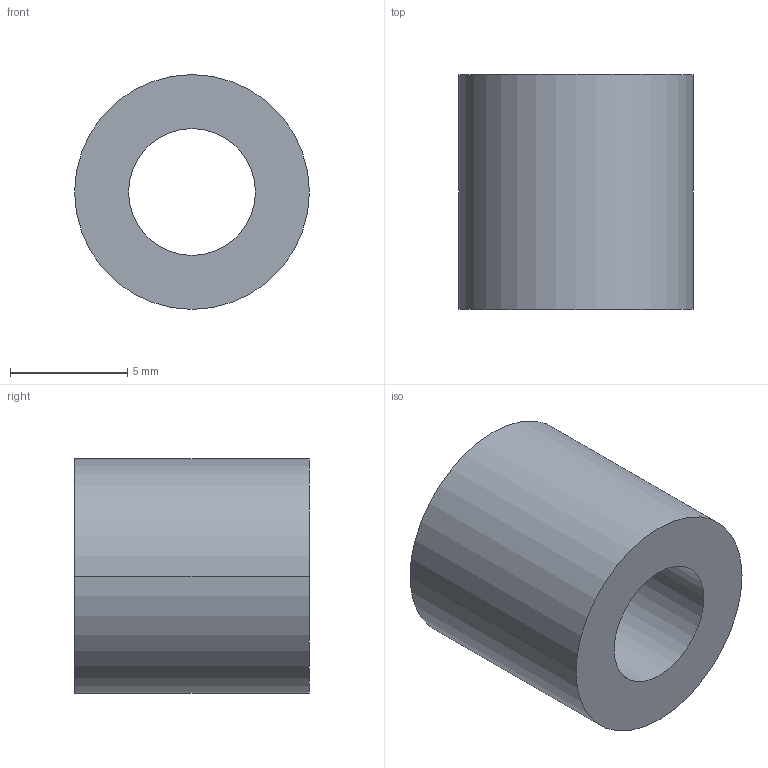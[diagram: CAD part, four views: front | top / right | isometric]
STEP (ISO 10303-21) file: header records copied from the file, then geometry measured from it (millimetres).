
FILE_DESCRIPTION (( 'STEP AP203' ), '1' );
FILE_NAME ('30800.WPP10D5.4.step', '2019-01-23T22:23:00', ( '' ), ( '' ), 'SwSTEP 2.0', 'SolidWorks 2017', '' );
FILE_SCHEMA (( 'CONFIG_CONTROL_DESIGN' ));
Length unit declared in the file: millimetre
Products named in the file (1): 30800.WPP10D5.4
Bounding box: 10 x 10 x 10 mm (x, y, z)
Volume: 547.2 mm3; surface area: 585.2 mm2
Topology: 1 solids, 1 shells, 8 faces, 16 edges, 10 vertices
Faces by surface type: cylinder 4, torus 2, plane 2
Entity records: 297 total; most frequent: DIRECTION 46, CARTESIAN_POINT 35, ORIENTED_EDGE 32, AXIS2_PLACEMENT_3D 21, EDGE_CURVE 16, CIRCLE 12, VERTEX_POINT 10, EDGE_LOOP 10
